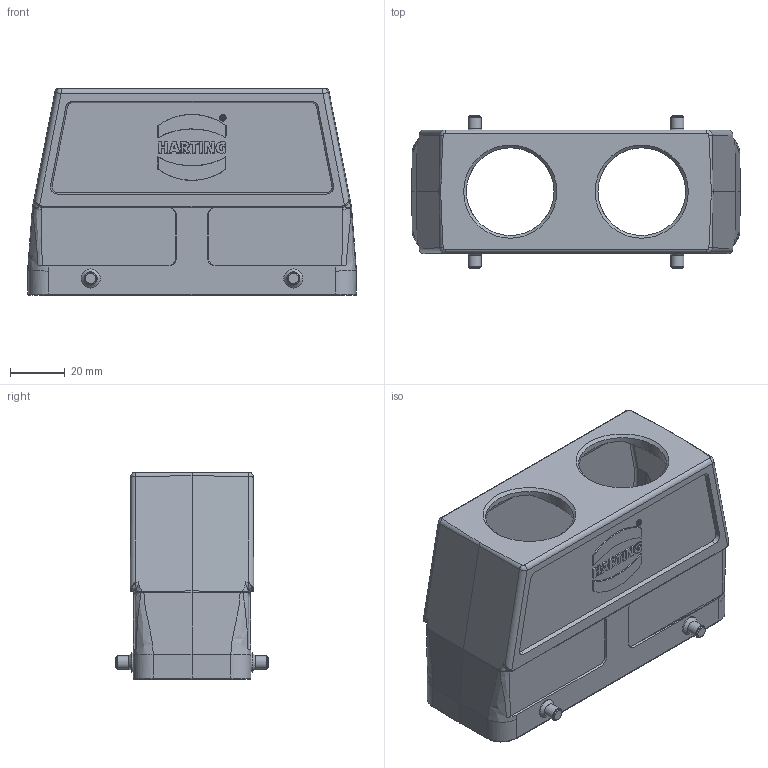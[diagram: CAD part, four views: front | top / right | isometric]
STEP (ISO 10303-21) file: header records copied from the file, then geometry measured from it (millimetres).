
FILE_DESCRIPTION(/* description */ (''),/* implementation_level */ '2;1');
FILE_NAME(/* name */ '100884374ugm000_c.stp',/* time_stamp */ '2022-03-12T10:08:47+01:00',/* author */ (''),/* organization */ (''),/* preprocessor_version */ 'ST-DEVELOPER v16.7',/* originating_system */ 'SIEMENS PLM Software NX 1911',/* authorisation */ '');
FILE_SCHEMA (('AUTOMOTIVE_DESIGN { 1 0 10303 214 3 1 1 1 }'));
Length unit declared in the file: millimetre
Products named in the file (1): 100884374ugm000_c
Bounding box: 120 x 55.6 x 75.5 mm (x, y, z)
Volume: 90223.7 mm3; surface area: 51259.5 mm2
Topology: 1 solids, 5 shells, 445 faces, 1118 edges, 702 vertices
Faces by surface type: plane 182, cylinder 108, bspline 83, cone 48, torus 20, sphere 4
Full cylindrical faces by diameter (mm): 2.74 x4, 2.95 x4, 3.1 x4, 4 x4, 4.8 x4, 7 x4, 32 x2
Entity records: 18580 total; most frequent: CARTESIAN_POINT 5577, ORIENTED_EDGE 2078, DIRECTION 1911, EDGE_CURVE 1039, AXIS2_PLACEMENT_3D 711, VERTEX_POINT 686, EDGE_LOOP 535, LINE 489
